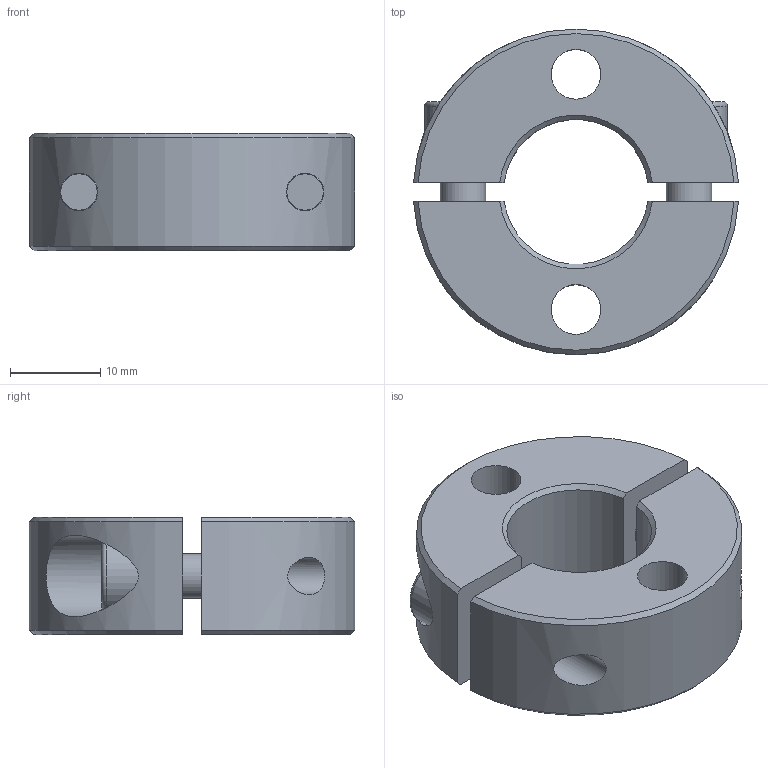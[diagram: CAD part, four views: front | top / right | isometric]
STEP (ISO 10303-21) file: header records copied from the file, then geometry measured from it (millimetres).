
FILE_DESCRIPTION( ( 'STEP AP203' ), '1' );
FILE_NAME( 'C:/Temp/Ganter_Step_05_03_2020/data/3_2/gn7072_2/Split Stainless Steel-Set collar GN 7072.2-36-B16-NI-A.stp', '2020-03-13T05:40:50', ( 'License CC BY-ND 4.0' ), ( 'CADENAS' ), ' ', 'PARTsolutions', ' ' );
FILE_SCHEMA( ( 'CONFIG_CONTROL_DESIGN' ) );
Length unit declared in the file: millimetre
Products named in the file (1): _Split Stainless Steel-Set collar GN 7072.2-36-B16-NI-A
Bounding box: 35.94 x 36 x 13 mm (x, y, z)
Volume: 8836.3 mm3; surface area: 5407.7 mm2
Topology: 1 solids, 1 shells, 58 faces, 136 edges, 92 vertices
Faces by surface type: plane 30, cylinder 16, cone 10, torus 2
Full cylindrical faces by diameter (mm): 4.134 x2, 5 x2, 5.4 x2, 5.5 x2, 8.5 x2, 9 x2
Entity records: 1833 total; most frequent: CARTESIAN_POINT 552, DIRECTION 250, ORIENTED_EDGE 224, EDGE_CURVE 112, AXIS2_PLACEMENT_3D 99, EDGE_LOOP 92, VERTEX_POINT 84, FACE_OUTER_BOUND 72
